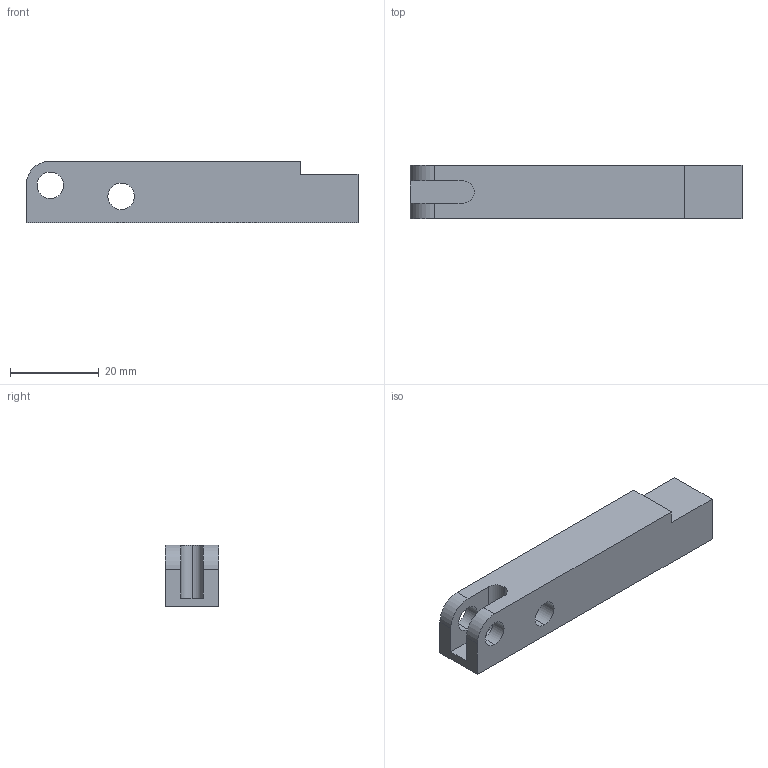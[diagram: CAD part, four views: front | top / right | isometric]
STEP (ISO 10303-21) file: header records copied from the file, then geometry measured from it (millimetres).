
FILE_DESCRIPTION (( 'STEP AP203' ), '1' );
FILE_NAME ('4193 252.STEP', '2017-11-29T09:50:29', ( '' ), ( '' ), 'SwSTEP 2.0', 'SolidWorks 2015', '' );
FILE_SCHEMA (( 'CONFIG_CONTROL_DESIGN' ));
Length unit declared in the file: millimetre
Products named in the file (1): 4193 252
Bounding box: 75 x 12 x 14 mm (x, y, z)
Volume: 10711.5 mm3; surface area: 4626.3 mm2
Topology: 1 solids, 1 shells, 21 faces, 57 edges, 38 vertices
Faces by surface type: plane 11, cylinder 10
Entity records: 760 total; most frequent: DIRECTION 121, CARTESIAN_POINT 117, ORIENTED_EDGE 114, EDGE_CURVE 57, AXIS2_PLACEMENT_3D 42, VERTEX_POINT 38, LINE 37, VECTOR 37
